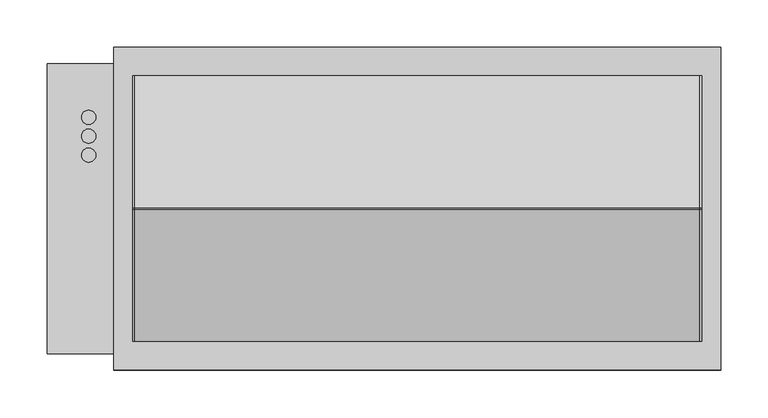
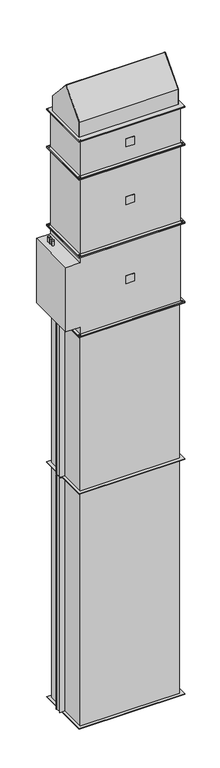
"""IFC4 building model written with IfcOpenShell, lengths in millimetres: proxy geometry, KORF_Завеса_ЭлектрическийНагрев_PWZ_C : PWZ-C 60-30 E."""

from ifc_helpers import new_model, si_unit, point, frame, frame_2d, origin, origin_with_axes, place, context, project, spatial, polyline, circle_curve, trimmed, segment, composite_curve, outline, extrude, source, transform, mapped, element, save


def mechanical_equipment_12c0542f(model_context):
    return source(origin(), model_context, "Body", "SweptSolid", [
        extrude(outline(polyline([(25.0, -155.0), (-25.0, -155.0), (-25.0, -153.0), (25.0, -153.0), (25.0, -155.0)])), frame((0.0, 0.0, 2730.0), z_axis=(0.0, 0.0, 1.0), x_axis=(1.0, 0.0, 0.0)), (0.0, 0.0, 1.0), 50.0),
        extrude(outline(composite_curve([segment(trimmed(circle_curve(frame_2d((-346.5, 76.5)), 7.5), [point((-339.0, 76.5))], [point((-354.0, 76.5))], False, "CARTESIAN"), True, "CONTINUOUS"), segment(trimmed(circle_curve(frame_2d((-346.5, 76.5)), 7.5), [point((-354.0, 76.5))], [point((-339.0, 76.5))], False, "CARTESIAN"), True, "CONTINUOUS")], self_intersect=False)), frame((0.0, 0.0, 2960.0), z_axis=(0.0, 0.0, 1.0), x_axis=(1.0, 0.0, 0.0)), (0.0, 0.0, 1.0), 30.0),
        extrude(outline(composite_curve([segment(trimmed(circle_curve(frame_2d((-346.5, 56.5)), 7.5), [point((-339.0, 56.5))], [point((-354.0, 56.5))], False, "CARTESIAN"), True, "CONTINUOUS"), segment(trimmed(circle_curve(frame_2d((-346.5, 56.5)), 7.5), [point((-354.0, 56.5))], [point((-339.0, 56.5))], False, "CARTESIAN"), True, "CONTINUOUS")], self_intersect=False)), frame((0.0, 0.0, 2960.0), z_axis=(0.0, 0.0, 1.0), x_axis=(1.0, 0.0, 0.0)), (0.0, 0.0, 1.0), 30.0),
        extrude(outline(composite_curve([segment(trimmed(circle_curve(frame_2d((-346.5, 96.5)), 7.5), [point((-339.0, 96.5))], [point((-354.0, 96.5))], False, "CARTESIAN"), True, "CONTINUOUS"), segment(trimmed(circle_curve(frame_2d((-346.5, 96.5)), 7.5), [point((-354.0, 96.5))], [point((-339.0, 96.5))], False, "CARTESIAN"), True, "CONTINUOUS")], self_intersect=False)), frame((0.0, 0.0, 2960.0), z_axis=(0.0, 0.0, 1.0), x_axis=(1.0, 0.0, 0.0)), (0.0, 0.0, 1.0), 30.0),
        extrude(outline(polyline([(-96.5, 2730.0), (-84.0, 2730.0), (-84.0, 2805.0), (-69.0, 2805.0), (-69.0, 2730.0), (-56.5, 2730.0), (-76.5, 2705.0), (-96.5, 2730.0)])), frame((303.0, 0.0, 0.0), z_axis=(1.0, 0.0, 0.0), x_axis=(0.0, 1.0, 0.0)), (0.0, 0.0, 1.0), 1.0),
        extrude(outline(polyline([(3005.0, 303.0), (3005.0, -303.0), (2960.0, -303.0), (2960.0, -390.0), (2550.0, -390.0), (2550.0, -303.0), (2505.0, -303.0), (2505.0, 303.0), (3005.0, 303.0)])), frame((0.0, -153.0, 0.0), z_axis=(0.0, 1.0, 0.0), x_axis=(0.0, 0.0, 1.0)), (0.0, 0.0, 1.0), 306.0),
        extrude(outline(polyline([(320.0, -170.0), (-320.0, -170.0), (-320.0, 170.0), (320.0, 170.0), (320.0, -170.0)]), holes=[polyline([(300.0, -150.0), (300.0, 150.0), (-300.0, 150.0), (-300.0, -150.0), (300.0, -150.0)]), composite_curve([segment(trimmed(circle_curve(frame_2d((-310.0, -160.0)), 4.5), [point((-305.5, -160.0))], [point((-314.5, -160.0))], True, "CARTESIAN"), True, "CONTINUOUS"), segment(trimmed(circle_curve(frame_2d((-310.0, -160.0)), 4.5), [point((-314.5, -160.0))], [point((-305.5, -160.0))], True, "CARTESIAN"), True, "CONTINUOUS")], self_intersect=False), composite_curve([segment(trimmed(circle_curve(frame_2d((310.0, -160.0)), 4.5), [point((314.5, -160.0))], [point((305.5, -160.0))], True, "CARTESIAN"), True, "CONTINUOUS"), segment(trimmed(circle_curve(frame_2d((310.0, -160.0)), 4.5), [point((305.5, -160.0))], [point((314.5, -160.0))], True, "CARTESIAN"), True, "CONTINUOUS")], self_intersect=False), composite_curve([segment(trimmed(circle_curve(frame_2d((310.0, 160.0)), 4.5), [point((314.5, 160.0))], [point((305.5, 160.0))], True, "CARTESIAN"), True, "CONTINUOUS"), segment(trimmed(circle_curve(frame_2d((310.0, 160.0)), 4.5), [point((305.5, 160.0))], [point((314.5, 160.0))], True, "CARTESIAN"), True, "CONTINUOUS")], self_intersect=False), composite_curve([segment(trimmed(circle_curve(frame_2d((-310.0, 160.0)), 4.5), [point((-305.5, 160.0))], [point((-314.5, 160.0))], True, "CARTESIAN"), True, "CONTINUOUS"), segment(trimmed(circle_curve(frame_2d((-310.0, 160.0)), 4.5), [point((-314.5, 160.0))], [point((-305.5, 160.0))], True, "CARTESIAN"), True, "CONTINUOUS")], self_intersect=False)]), frame((0.0, 0.0, 3005.0), z_axis=(0.0, 0.0, 1.0), x_axis=(1.0, 0.0, 0.0)), (0.0, 0.0, 1.0), 5.0),
        extrude(outline(polyline([(320.0, -170.0), (-320.0, -170.0), (-320.0, 170.0), (320.0, 170.0), (320.0, -170.0)]), holes=[polyline([(300.0, -150.0), (300.0, 150.0), (-300.0, 150.0), (-300.0, -150.0), (300.0, -150.0)]), composite_curve([segment(trimmed(circle_curve(frame_2d((-310.0, -160.0)), 4.5), [point((-305.5, -160.0))], [point((-314.5, -160.0))], True, "CARTESIAN"), True, "CONTINUOUS"), segment(trimmed(circle_curve(frame_2d((-310.0, -160.0)), 4.5), [point((-314.5, -160.0))], [point((-305.5, -160.0))], True, "CARTESIAN"), True, "CONTINUOUS")], self_intersect=False), composite_curve([segment(trimmed(circle_curve(frame_2d((310.0, -160.0)), 4.5), [point((314.5, -160.0))], [point((305.5, -160.0))], True, "CARTESIAN"), True, "CONTINUOUS"), segment(trimmed(circle_curve(frame_2d((310.0, -160.0)), 4.5), [point((305.5, -160.0))], [point((314.5, -160.0))], True, "CARTESIAN"), True, "CONTINUOUS")], self_intersect=False), composite_curve([segment(trimmed(circle_curve(frame_2d((310.0, 160.0)), 4.5), [point((314.5, 160.0))], [point((305.5, 160.0))], True, "CARTESIAN"), True, "CONTINUOUS"), segment(trimmed(circle_curve(frame_2d((310.0, 160.0)), 4.5), [point((305.5, 160.0))], [point((314.5, 160.0))], True, "CARTESIAN"), True, "CONTINUOUS")], self_intersect=False), composite_curve([segment(trimmed(circle_curve(frame_2d((-310.0, 160.0)), 4.5), [point((-305.5, 160.0))], [point((-314.5, 160.0))], True, "CARTESIAN"), True, "CONTINUOUS"), segment(trimmed(circle_curve(frame_2d((-310.0, 160.0)), 4.5), [point((-314.5, 160.0))], [point((-305.5, 160.0))], True, "CARTESIAN"), True, "CONTINUOUS")], self_intersect=False)]), frame((0.0, 0.0, 2500.0), z_axis=(0.0, 0.0, 1.0), x_axis=(1.0, 0.0, 0.0)), (0.0, 0.0, 1.0), 5.0),
        extrude(outline(polyline([(25.0, -155.0), (-25.0, -155.0), (-25.0, -153.0), (25.0, -153.0), (25.0, -155.0)])), frame((0.0, 0.0, 3604.0), z_axis=(0.0, 0.0, 1.0), x_axis=(1.0, 0.0, 0.0)), (0.0, 0.0, 1.0), 50.0),
        extrude(outline(polyline([(-320.0, -170.0), (-320.0, 170.0), (320.0, 170.0), (320.0, -170.0), (-320.0, -170.0)]), holes=[polyline([(-300.0, -150.0), (300.0, -150.0), (300.0, 150.0), (-300.0, 150.0), (-300.0, -150.0)]), composite_curve([segment(trimmed(circle_curve(frame_2d((310.0, -160.0)), 4.5), [point((314.5, -160.0))], [point((305.5, -160.0))], True, "CARTESIAN"), True, "CONTINUOUS"), segment(trimmed(circle_curve(frame_2d((310.0, -160.0)), 4.5), [point((305.5, -160.0))], [point((314.5, -160.0))], True, "CARTESIAN"), True, "CONTINUOUS")], self_intersect=False), composite_curve([segment(trimmed(circle_curve(frame_2d((-310.0, -160.0)), 4.5), [point((-305.5, -160.0))], [point((-314.5, -160.0))], True, "CARTESIAN"), True, "CONTINUOUS"), segment(trimmed(circle_curve(frame_2d((-310.0, -160.0)), 4.5), [point((-314.5, -160.0))], [point((-305.5, -160.0))], True, "CARTESIAN"), True, "CONTINUOUS")], self_intersect=False), composite_curve([segment(trimmed(circle_curve(frame_2d((-310.0, 160.0)), 4.5), [point((-305.5, 160.0))], [point((-314.5, 160.0))], True, "CARTESIAN"), True, "CONTINUOUS"), segment(trimmed(circle_curve(frame_2d((-310.0, 160.0)), 4.5), [point((-314.5, 160.0))], [point((-305.5, 160.0))], True, "CARTESIAN"), True, "CONTINUOUS")], self_intersect=False), composite_curve([segment(trimmed(circle_curve(frame_2d((310.0, 160.0)), 4.5), [point((314.5, 160.0))], [point((305.5, 160.0))], True, "CARTESIAN"), True, "CONTINUOUS"), segment(trimmed(circle_curve(frame_2d((310.0, 160.0)), 4.5), [point((305.5, 160.0))], [point((314.5, 160.0))], True, "CARTESIAN"), True, "CONTINUOUS")], self_intersect=False)]), frame((0.0, 0.0, 3508.0), z_axis=(0.0, 0.0, 1.0), x_axis=(1.0, 0.0, 0.0)), (0.0, 0.0, 1.0), 5.0),
        extrude(outline(polyline([(-320.0, -170.0), (-320.0, 170.0), (320.0, 170.0), (320.0, -170.0), (-320.0, -170.0)]), holes=[polyline([(-300.0, -150.0), (300.0, -150.0), (300.0, 150.0), (-300.0, 150.0), (-300.0, -150.0)]), composite_curve([segment(trimmed(circle_curve(frame_2d((310.0, -160.0)), 4.5), [point((314.5, -160.0))], [point((305.5, -160.0))], True, "CARTESIAN"), True, "CONTINUOUS"), segment(trimmed(circle_curve(frame_2d((310.0, -160.0)), 4.5), [point((305.5, -160.0))], [point((314.5, -160.0))], True, "CARTESIAN"), True, "CONTINUOUS")], self_intersect=False), composite_curve([segment(trimmed(circle_curve(frame_2d((-310.0, -160.0)), 4.5), [point((-305.5, -160.0))], [point((-314.5, -160.0))], True, "CARTESIAN"), True, "CONTINUOUS"), segment(trimmed(circle_curve(frame_2d((-310.0, -160.0)), 4.5), [point((-314.5, -160.0))], [point((-305.5, -160.0))], True, "CARTESIAN"), True, "CONTINUOUS")], self_intersect=False), composite_curve([segment(trimmed(circle_curve(frame_2d((-310.0, 160.0)), 4.5), [point((-305.5, 160.0))], [point((-314.5, 160.0))], True, "CARTESIAN"), True, "CONTINUOUS"), segment(trimmed(circle_curve(frame_2d((-310.0, 160.0)), 4.5), [point((-314.5, 160.0))], [point((-305.5, 160.0))], True, "CARTESIAN"), True, "CONTINUOUS")], self_intersect=False), composite_curve([segment(trimmed(circle_curve(frame_2d((310.0, 160.0)), 4.5), [point((314.5, 160.0))], [point((305.5, 160.0))], True, "CARTESIAN"), True, "CONTINUOUS"), segment(trimmed(circle_curve(frame_2d((310.0, 160.0)), 4.5), [point((305.5, 160.0))], [point((314.5, 160.0))], True, "CARTESIAN"), True, "CONTINUOUS")], self_intersect=False)]), frame((0.0, 0.0, 3745.0), z_axis=(0.0, 0.0, 1.0), x_axis=(1.0, 0.0, 0.0)), (0.0, 0.0, 1.0), 5.0),
        extrude(outline(polyline([(-303.0, -153.0), (-303.0, 153.0), (303.0, 153.0), (303.0, -153.0), (-303.0, -153.0)])), frame((0.0, 0.0, 3513.0), z_axis=(0.0, 0.0, 1.0), x_axis=(1.0, 0.0, 0.0)), (0.0, 0.0, 1.0), 232.0),
        extrude(outline(polyline([(25.0, -155.0), (-25.0, -155.0), (-25.0, -153.0), (25.0, -153.0), (25.0, -155.0)])), frame((0.0, 0.0, 3234.0), z_axis=(0.0, 0.0, 1.0), x_axis=(1.0, 0.0, 0.0)), (0.0, 0.0, 1.0), 50.0),
        extrude(outline(polyline([(320.0, -170.0), (-320.0, -170.0), (-320.0, 170.0), (320.0, 170.0), (320.0, -170.0)]), holes=[polyline([(300.0, -150.0), (300.0, 150.0), (-300.0, 150.0), (-300.0, -150.0), (300.0, -150.0)]), composite_curve([segment(trimmed(circle_curve(frame_2d((-310.0, -160.0)), 4.5), [point((-305.5, -160.0))], [point((-314.5, -160.0))], True, "CARTESIAN"), True, "CONTINUOUS"), segment(trimmed(circle_curve(frame_2d((-310.0, -160.0)), 4.5), [point((-314.5, -160.0))], [point((-305.5, -160.0))], True, "CARTESIAN"), True, "CONTINUOUS")], self_intersect=False), composite_curve([segment(trimmed(circle_curve(frame_2d((310.0, -160.0)), 4.5), [point((314.5, -160.0))], [point((305.5, -160.0))], True, "CARTESIAN"), True, "CONTINUOUS"), segment(trimmed(circle_curve(frame_2d((310.0, -160.0)), 4.5), [point((305.5, -160.0))], [point((314.5, -160.0))], True, "CARTESIAN"), True, "CONTINUOUS")], self_intersect=False), composite_curve([segment(trimmed(circle_curve(frame_2d((310.0, 160.0)), 4.5), [point((314.5, 160.0))], [point((305.5, 160.0))], True, "CARTESIAN"), True, "CONTINUOUS"), segment(trimmed(circle_curve(frame_2d((310.0, 160.0)), 4.5), [point((305.5, 160.0))], [point((314.5, 160.0))], True, "CARTESIAN"), True, "CONTINUOUS")], self_intersect=False), composite_curve([segment(trimmed(circle_curve(frame_2d((-310.0, 160.0)), 4.5), [point((-305.5, 160.0))], [point((-314.5, 160.0))], True, "CARTESIAN"), True, "CONTINUOUS"), segment(trimmed(circle_curve(frame_2d((-310.0, 160.0)), 4.5), [point((-314.5, 160.0))], [point((-305.5, 160.0))], True, "CARTESIAN"), True, "CONTINUOUS")], self_intersect=False)]), frame((0.0, 0.0, 3503.0), z_axis=(0.0, 0.0, 1.0), x_axis=(1.0, 0.0, 0.0)), (0.0, 0.0, 1.0), 5.0),
        extrude(outline(polyline([(320.0, -170.0), (-320.0, -170.0), (-320.0, 170.0), (320.0, 170.0), (320.0, -170.0)]), holes=[polyline([(300.0, -150.0), (300.0, 150.0), (-300.0, 150.0), (-300.0, -150.0), (300.0, -150.0)]), composite_curve([segment(trimmed(circle_curve(frame_2d((-310.0, -160.0)), 4.5), [point((-305.5, -160.0))], [point((-314.5, -160.0))], True, "CARTESIAN"), True, "CONTINUOUS"), segment(trimmed(circle_curve(frame_2d((-310.0, -160.0)), 4.5), [point((-314.5, -160.0))], [point((-305.5, -160.0))], True, "CARTESIAN"), True, "CONTINUOUS")], self_intersect=False), composite_curve([segment(trimmed(circle_curve(frame_2d((310.0, -160.0)), 4.5), [point((314.5, -160.0))], [point((305.5, -160.0))], True, "CARTESIAN"), True, "CONTINUOUS"), segment(trimmed(circle_curve(frame_2d((310.0, -160.0)), 4.5), [point((305.5, -160.0))], [point((314.5, -160.0))], True, "CARTESIAN"), True, "CONTINUOUS")], self_intersect=False), composite_curve([segment(trimmed(circle_curve(frame_2d((310.0, 160.0)), 4.5), [point((314.5, 160.0))], [point((305.5, 160.0))], True, "CARTESIAN"), True, "CONTINUOUS"), segment(trimmed(circle_curve(frame_2d((310.0, 160.0)), 4.5), [point((305.5, 160.0))], [point((314.5, 160.0))], True, "CARTESIAN"), True, "CONTINUOUS")], self_intersect=False), composite_curve([segment(trimmed(circle_curve(frame_2d((-310.0, 160.0)), 4.5), [point((-305.5, 160.0))], [point((-314.5, 160.0))], True, "CARTESIAN"), True, "CONTINUOUS"), segment(trimmed(circle_curve(frame_2d((-310.0, 160.0)), 4.5), [point((-314.5, 160.0))], [point((-305.5, 160.0))], True, "CARTESIAN"), True, "CONTINUOUS")], self_intersect=False)]), frame((0.0, 0.0, 3010.0), z_axis=(0.0, 0.0, 1.0), x_axis=(1.0, 0.0, 0.0)), (0.0, 0.0, 1.0), 5.0),
        extrude(outline(polyline([(303.0, -153.0), (-303.0, -153.0), (-303.0, 153.0), (303.0, 153.0), (303.0, -153.0)])), frame((0.0, 0.0, 3015.0), z_axis=(0.0, 0.0, 1.0), x_axis=(1.0, 0.0, 0.0)), (0.0, 0.0, 1.0), 488.0),
        extrude(outline(polyline([(300.0, 150.0), (300.0, -150.0), (-300.0, -150.0), (-300.0, 150.0), (300.0, 150.0)])), frame((0.0, 0.0, 1500.0), z_axis=(0.0, 0.0, 1.0), x_axis=(1.0, 0.0, 0.0)), (0.0, 0.0, 1.0), 1000.0),
        extrude(outline(polyline([(-328.0, 42.5), (-300.0, 42.5), (-300.0, 13.5), (-328.0, 13.5), (-328.0, 42.5)])), frame((0.0, 0.0, 1502.0), z_axis=(0.0, 0.0, 1.0), x_axis=(1.0, 0.0, 0.0)), (0.0, 0.0, 1.0), 996.0),
        extrude(outline(polyline([(-332.0, 46.5), (-300.0, 46.5), (-300.0, 44.5), (-332.0, 44.5), (-332.0, 46.5)])), frame((0.0, 0.0, 1502.0), z_axis=(0.0, 0.0, 1.0), x_axis=(1.0, 0.0, 0.0)), (0.0, 0.0, 1.0), 996.0),
        extrude(outline(polyline([(-332.0, 9.5), (-332.0, 11.5), (-300.0, 11.5), (-300.0, 9.5), (-332.0, 9.5)])), frame((0.0, 0.0, 1502.0), z_axis=(0.0, 0.0, 1.0), x_axis=(1.0, 0.0, 0.0)), (0.0, 0.0, 1.0), 996.0),
        extrude(outline(polyline([(320.0, 170.0), (320.0, -170.0), (-320.0, -170.0), (-320.0, 170.0), (320.0, 170.0)]), holes=[polyline([(300.0, 150.0), (-300.0, 150.0), (-300.0, -150.0), (300.0, -150.0), (300.0, 150.0)])]), frame((0.0, 0.0, 2498.0), z_axis=(0.0, 0.0, 1.0), x_axis=(1.0, 0.0, 0.0)), (0.0, 0.0, 1.0), 2.0),
        extrude(outline(polyline([(320.0, 170.0), (320.0, -170.0), (-320.0, -170.0), (-320.0, 170.0), (320.0, 170.0)]), holes=[polyline([(300.0, 150.0), (-300.0, 150.0), (-300.0, -150.0), (300.0, -150.0), (300.0, 150.0)])]), frame((0.0, 0.0, 1500.0), z_axis=(0.0, 0.0, 1.0), x_axis=(1.0, 0.0, 0.0)), (0.0, 0.0, 1.0), 2.0),
        extrude(outline(polyline([(300.0, 150.0), (300.0, -150.0), (-300.0, -150.0), (-300.0, 150.0), (300.0, 150.0)])), origin_with_axes(), (0.0, 0.0, 1.0), 1500.0),
        extrude(outline(polyline([(-328.0, 42.5), (-300.0, 42.5), (-300.0, 13.5), (-328.0, 13.5), (-328.0, 42.5)])), frame((0.0, 0.0, 2.0), z_axis=(0.0, 0.0, 1.0), x_axis=(1.0, 0.0, 0.0)), (0.0, 0.0, 1.0), 1496.0),
        extrude(outline(polyline([(-332.0, 46.5), (-300.0, 46.5), (-300.0, 44.5), (-332.0, 44.5), (-332.0, 46.5)])), frame((0.0, 0.0, 2.0), z_axis=(0.0, 0.0, 1.0), x_axis=(1.0, 0.0, 0.0)), (0.0, 0.0, 1.0), 1496.0),
        extrude(outline(polyline([(-332.0, 9.5), (-332.0, 11.5), (-300.0, 11.5), (-300.0, 9.5), (-332.0, 9.5)])), frame((0.0, 0.0, 2.0), z_axis=(0.0, 0.0, 1.0), x_axis=(1.0, 0.0, 0.0)), (0.0, 0.0, 1.0), 1496.0),
        extrude(outline(polyline([(320.0, 170.0), (320.0, -170.0), (-320.0, -170.0), (-320.0, 170.0), (320.0, 170.0)]), holes=[polyline([(300.0, 150.0), (-300.0, 150.0), (-300.0, -150.0), (300.0, -150.0), (300.0, 150.0)])]), frame((0.0, 0.0, 1498.0), z_axis=(0.0, 0.0, 1.0), x_axis=(1.0, 0.0, 0.0)), (0.0, 0.0, 1.0), 2.0),
        extrude(outline(polyline([(320.0, 170.0), (320.0, -170.0), (-320.0, -170.0), (-320.0, 170.0), (320.0, 170.0)]), holes=[polyline([(300.0, 150.0), (-300.0, 150.0), (-300.0, -150.0), (300.0, -150.0), (300.0, 150.0)])]), origin_with_axes(), (0.0, 0.0, 1.0), 2.0),
        extrude(outline(composite_curve([segment(polyline([(140.0, 3847.1428571), (140.0, 3752.0), (-140.0, 3752.0), (-140.0, 3847.1428571), (-0.6395979, 3999.3786763)]), True, "CONTINUOUS"), segment(trimmed(circle_curve(frame_2d((0.0, 3998.7202668)), 0.9179263), [point((-0.6395979, 3999.3786763))], [point((0.6395979, 3999.3786763))], False, "CARTESIAN"), True, "CONTINUOUS"), segment(polyline([(0.6395979, 3999.3786763), (140.0, 3847.1428571)]), True, "CONTINUOUS")], self_intersect=False)), frame((298.0, 0.0, 0.0), z_axis=(1.0, 0.0, 0.0), x_axis=(0.0, 1.0, 0.0)), (0.0, 0.0, 1.0), 2.0),
        extrude(outline(composite_curve([segment(polyline([(140.0, 3847.1428571), (140.0, 3752.0), (-140.0, 3752.0), (-140.0, 3847.1428571), (-0.6395979, 3999.3786763)]), True, "CONTINUOUS"), segment(trimmed(circle_curve(frame_2d((0.0, 3998.7202668)), 0.9179263), [point((-0.6395979, 3999.3786763))], [point((0.6395979, 3999.3786763))], False, "CARTESIAN"), True, "CONTINUOUS"), segment(polyline([(0.6395979, 3999.3786763), (140.0, 3847.1428571)]), True, "CONTINUOUS")], self_intersect=False)), frame((-298.0, 0.0, 0.0), z_axis=(1.0, 0.0, 0.0), x_axis=(0.0, 1.0, 0.0)), (0.0, 0.0, 1.0), 596.0),
        extrude(outline(composite_curve([segment(polyline([(140.0, 3847.1428571), (140.0, 3752.0), (-140.0, 3752.0), (-140.0, 3847.1428571), (-0.6395979, 3999.3786763)]), True, "CONTINUOUS"), segment(trimmed(circle_curve(frame_2d((0.0, 3998.7202668)), 0.9179263), [point((-0.6395979, 3999.3786763))], [point((0.6395979, 3999.3786763))], False, "CARTESIAN"), True, "CONTINUOUS"), segment(polyline([(0.6395979, 3999.3786763), (140.0, 3847.1428571)]), True, "CONTINUOUS")], self_intersect=False)), frame((-300.0, 0.0, 0.0), z_axis=(1.0, 0.0, 0.0), x_axis=(0.0, 1.0, 0.0)), (0.0, 0.0, 1.0), 2.0),
        extrude(outline(polyline([(320.0, 170.0), (320.0, -170.0), (-320.0, -170.0), (-320.0, 170.0), (320.0, 170.0)]), holes=[polyline([(-300.0, 140.0), (-300.0, -140.0), (300.0, -140.0), (300.0, 140.0), (-300.0, 140.0)])]), frame((0.0, 0.0, 3750.0), z_axis=(0.0, 0.0, 1.0), x_axis=(1.0, 0.0, 0.0)), (0.0, 0.0, 1.0), 2.0),
    ])


if __name__ == "__main__":
    model = new_model("IFC4")
    model_context = context("Model", 3, world=origin())
    ifc_project = project(units=[si_unit("LENGTHUNIT", "METRE", prefix="MILLI")], contexts=[model_context])
    site = spatial("IfcSite", under=ifc_project)
    building = spatial("IfcBuilding", under=site)
    placement = place(None, origin())
    mechanical_equipment_shape = mechanical_equipment_12c0542f(model_context)
    element("IfcBuildingElementProxy", 1, Name="KORF_Завеса_ЭлектрическийНагрев_PWZ_C : PWZ-C 60-30 E", ObjectType="KORF_Завеса_ЭлектрическийНагрев_PWZ_C : PWZ-C 60-30 E", at=placement, inside=building, context=model_context, shape_type="MappedRepresentation", body=[
        mapped(mechanical_equipment_shape, transform((0.0, 0.0, 0.0), x_axis=(1.0, 0.0, 0.0), y_axis=(0.0, 1.0, 0.0), z_axis=(0.0, 0.0, 1.0))),
    ])
    save(model, "model.ifc")
